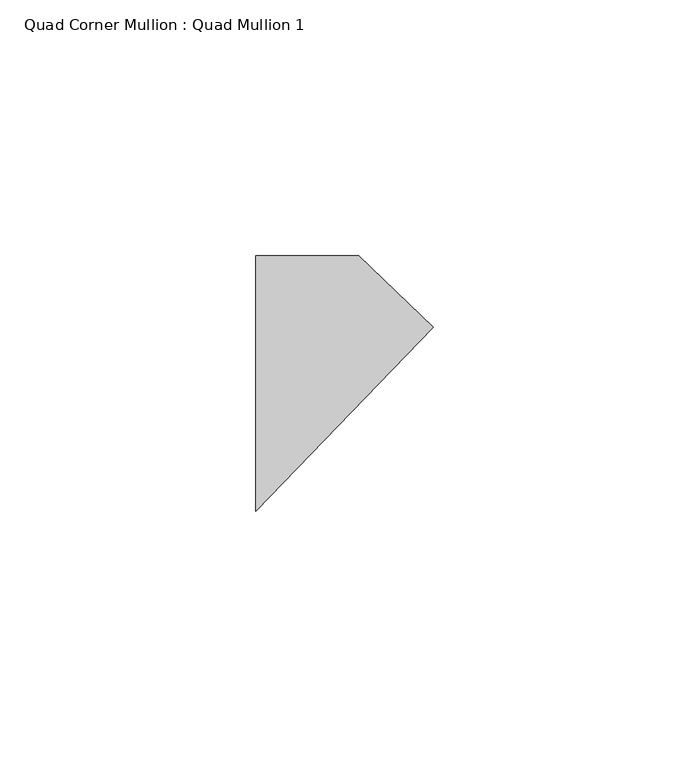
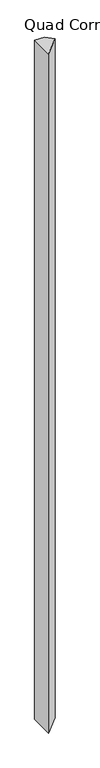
"""IFC4 building model written with IfcOpenShell, lengths in millimetres: member geometry, Quad Corner Mullion : Quad Mullion 1."""

import ifcopenshell
import ifcopenshell.guid

model = None  # the IFC model being written
_history = None  # IfcOwnerHistory: only IFC2X3 demands one
_inside = {}  # id of a spatial element -> (the spatial element, [elements in it])
_under = {}  # id of a project, library or spatial element -> (it, [spatial elements below it])
_declared = {}  # id of a project -> (the project, [libraries it declares])
_typed = {}  # id of a type object -> (the type object, [elements of that type])
_made_of = {}  # id of a material, layer set ... -> (it, [elements and type objects made of it])


def new_model(schema):
    """Start an empty IFC model of exactly this schema.

    Asked for "IFC4X3", IfcOpenShell would pick the latest addendum, in which some entities
    have other attributes; the version numbers below select the first issue.
    IFC2X3 requires an IfcOwnerHistory on every rooted entity: one is made here for all.
    """
    global model, _history
    if schema == "IFC4X3":
        model = ifcopenshell.file(schema_version=(4, 3, 0, 0))
    else:
        model = ifcopenshell.file(schema=schema)
    _inside.clear()
    _under.clear()
    _declared.clear()
    _typed.clear()
    _made_of.clear()
    _history = None
    if model.schema == "IFC2X3":
        org = make("IfcOrganization", Name="unknown")
        user = make(
            "IfcPersonAndOrganization",
            ThePerson=make("IfcPerson", FamilyName="unknown"),
            TheOrganization=org,
        )
        app = make(
            "IfcApplication",
            ApplicationDeveloper=org,
            Version="unknown",
            ApplicationFullName="unknown",
            ApplicationIdentifier="unknown",
        )
        _history = make(
            "IfcOwnerHistory",
            OwningUser=user,
            OwningApplication=app,
            ChangeAction="ADDED",
            CreationDate=0,
        )
    return model


def make(cls, **values):
    """One entity of the class cls with the attributes given. An attribute that is None is left unset."""
    return model.create_entity(
        cls, **{name: value for name, value in values.items() if value is not None}
    )


def rooted(cls, **values):
    """An entity with a GlobalId (a new one), such as an element, a storey or a relation."""
    return make(cls, GlobalId=ifcopenshell.guid.new(), OwnerHistory=_history, **values)


def si_unit(unit_type, name, prefix=None):
    """IfcSIUnit, for example si_unit("LENGTHUNIT", "METRE", prefix="MILLI")."""
    return make("IfcSIUnit", UnitType=unit_type, Prefix=prefix, Name=name)


def assignment(units):
    """IfcUnitAssignment: the units of a project."""
    return None if units is None else make("IfcUnitAssignment", Units=units)


def point(xyz):
    """IfcCartesianPoint."""
    return None if xyz is None else make("IfcCartesianPoint", Coordinates=xyz)


def direction(xyz):
    """IfcDirection."""
    return None if xyz is None else make("IfcDirection", DirectionRatios=xyz)


def frame(location, z_axis=None, x_axis=None):
    """IfcAxis2Placement3D, a coordinate frame: its origin and axes. An axis left out is left unset."""
    return make(
        "IfcAxis2Placement3D",
        Location=point(location),
        Axis=direction(z_axis),
        RefDirection=direction(x_axis),
    )


def origin():
    """The frame at (0, 0, 0) with its axes left unset."""
    return frame((0.0, 0.0, 0.0))


def place(relative_to, where):
    """IfcLocalPlacement: puts the frame where relative to a parent placement (None: the world)."""
    return make(
        "IfcLocalPlacement", PlacementRelTo=relative_to, RelativePlacement=where
    )


def context(
    kind, dimensions, precision=None, world=None, true_north=None, identifier=None
):
    """IfcGeometricRepresentationContext, for example the 3D "Model" context."""
    return make(
        "IfcGeometricRepresentationContext",
        ContextIdentifier=identifier,
        ContextType=kind,
        CoordinateSpaceDimension=dimensions,
        Precision=precision,
        WorldCoordinateSystem=world,
        TrueNorth=true_north,
    )


def project(units=None, contexts=None):
    """IfcProject with its units and contexts."""
    return rooted(
        "IfcProject",
        Name="project",
        RepresentationContexts=contexts,
        UnitsInContext=assignment(units),
    )


def spatial(cls, under=None, at=None, **own):
    """A site, building, storey or space (cls), placed at a placement, below another one or the project."""
    s = rooted(cls, ObjectPlacement=at, **own)
    if under is not None:
        _under.setdefault(under.id(), (under, []))[1].append(s)
    return s


def polyline(points):
    """IfcPolyline through the points."""
    return make("IfcPolyline", Points=[point(p) for p in points])


def outline(outer, holes=None, kind="AREA"):
    """IfcArbitraryClosedProfileDef: a profile drawn as a closed curve; with holes, ...WithVoids."""
    if holes is None:
        return make("IfcArbitraryClosedProfileDef", ProfileType=kind, OuterCurve=outer)
    return make(
        "IfcArbitraryProfileDefWithVoids",
        ProfileType=kind,
        OuterCurve=outer,
        InnerCurves=holes,
    )


def extrude(swept, where, along, depth):
    """IfcExtrudedAreaSolid: the profile swept, set in the frame where, extruded along a direction by depth."""
    return make(
        "IfcExtrudedAreaSolid",
        SweptArea=swept,
        Position=where,
        ExtrudedDirection=direction(along),
        Depth=depth,
    )


def shape(context_of_items, identifier, shape_type, items):
    """IfcShapeRepresentation: the items that make up one representation, for example the "Body"."""
    return make(
        "IfcShapeRepresentation",
        ContextOfItems=context_of_items,
        RepresentationIdentifier=identifier,
        RepresentationType=shape_type,
        Items=items,
    )


def source(mapping_origin, context_of_items, identifier, shape_type, items):
    """IfcRepresentationMap: a shape defined once, which mapped items show again and again."""
    return make(
        "IfcRepresentationMap",
        MappingOrigin=mapping_origin,
        MappedRepresentation=shape(context_of_items, identifier, shape_type, items),
    )


def transform(
    local_origin,
    x_axis=None,
    y_axis=None,
    z_axis=None,
    scale=None,
    scale2=None,
    scale3=None,
    uniform=True,
):
    """IfcCartesianTransformationOperator3D, or its non-uniform kind. x_axis, y_axis, z_axis: its Axis1, 2, 3."""
    if uniform:
        return make(
            "IfcCartesianTransformationOperator3D",
            Axis1=direction(x_axis),
            Axis2=direction(y_axis),
            LocalOrigin=point(local_origin),
            Scale=scale,
            Axis3=direction(z_axis),
        )
    return make(
        "IfcCartesianTransformationOperator3DnonUniform",
        Axis1=direction(x_axis),
        Axis2=direction(y_axis),
        LocalOrigin=point(local_origin),
        Scale=scale,
        Axis3=direction(z_axis),
        Scale2=scale2,
        Scale3=scale3,
    )


def mapped(mapping_source, mapping_target):
    """IfcMappedItem: shows the shape of a source again, moved by a transform."""
    return make(
        "IfcMappedItem", MappingSource=mapping_source, MappingTarget=mapping_target
    )


def made_of(thing, what):
    """Note that an element or type object is made of a material, layer set ...; save() writes the relation."""
    if what is not None:
        _made_of.setdefault(what.id(), (what, []))[1].append(thing)
    return thing


def element(
    cls,
    number,
    at=None,
    inside=None,
    cuts=None,
    type_object=None,
    material=None,
    context=None,
    identifier="Body",
    shape_type=None,
    held_by="IfcProductDefinitionShape",
    body=None,
    shapes=None,
    **own,
):
    """One element of the class cls, such as IfcWall. Its Tag is "e" and its number.

    at: its placement. inside: the storey or other place that contains it. cuts: it is an
    opening in that element (IfcRelVoidsElement). A single representation is given by context,
    identifier, shape_type and body (its items); several are given by shapes. held_by: the class
    of the entity that holds the representations. save() writes the other relations.
    """
    e = rooted(cls, Tag="e%d" % number, ObjectPlacement=at, **own)
    if body is not None:
        shapes = [shape(context, identifier, shape_type, body)]
    if shapes is not None:
        e.Representation = make(held_by, Representations=shapes)
    if inside is not None:
        _inside.setdefault(inside.id(), (inside, []))[1].append(e)
    if cuts is not None:
        rooted(
            "IfcRelVoidsElement", RelatingBuildingElement=cuts, RelatedOpeningElement=e
        )
    if type_object is not None:
        _typed.setdefault(type_object.id(), (type_object, []))[1].append(e)
    return made_of(e, material)


def aggregate(whole, parts):
    """IfcRelAggregates: a whole, such as a stair, and the parts it consists of."""
    return rooted("IfcRelAggregates", RelatingObject=whole, RelatedObjects=parts)


def save(model, path):
    """Write the relations noted so far, then the file.

    IfcRelAggregates (storeys below a building ...), IfcRelContainedInSpatialStructure (elements
    in a storey), IfcRelDefinesByType, IfcRelAssociatesMaterial and IfcRelDeclares: one each for
    every whole, place, type object, material and project.
    """
    for whole, parts in _under.values():
        aggregate(whole, parts)
    for where, things in _inside.values():
        rooted(
            "IfcRelContainedInSpatialStructure",
            RelatedElements=things,
            RelatingStructure=where,
        )
    for kind, things in _typed.values():
        rooted("IfcRelDefinesByType", RelatedObjects=things, RelatingType=kind)
    for what, things in _made_of.values():
        rooted("IfcRelAssociatesMaterial", RelatedObjects=things, RelatingMaterial=what)
    for by, libraries in _declared.values():
        rooted("IfcRelDeclares", RelatingContext=by, RelatedDefinitions=libraries)
    model.write(path)


def quad_corner_mullion_quad_mullion_1_ff6e7ab8(model_context):
    return source(origin(), model_context, "Body", "SweptSolid", [
        extrude(outline(polyline([(24.6322629, 10.96699), (-10.1006556, -25.0), (-10.1006556, 25.0), (10.1006556, 25.0), (24.6322629, 10.96699)])), frame((0.0, 0.0, -1500.0), z_axis=(0.0, 0.0, 1.0), x_axis=(1.0, 0.0, 0.0)), (0.0, 0.0, 1.0), 1500.0),
    ])


if __name__ == "__main__":
    model = new_model("IFC4")
    model_context = context("Model", 3, world=origin())
    ifc_project = project(units=[si_unit("LENGTHUNIT", "METRE", prefix="MILLI")], contexts=[model_context])
    site = spatial("IfcSite", under=ifc_project)
    building = spatial("IfcBuilding", under=site)
    placement = place(None, origin())
    quad_corner_mullion_quad_mullion_1_shape = quad_corner_mullion_quad_mullion_1_ff6e7ab8(model_context)
    element("IfcMember", 1, ObjectType="Quad Corner Mullion : Quad Mullion 1", at=placement, inside=building, context=model_context, shape_type="MappedRepresentation", body=[
        mapped(quad_corner_mullion_quad_mullion_1_shape, transform((0.0, 0.0, 0.0), x_axis=(1.0, 0.0, 0.0), y_axis=(0.0, 1.0, 0.0), z_axis=(0.0, 0.0, 1.0))),
    ])
    save(model, "model.ifc")
